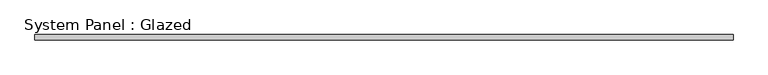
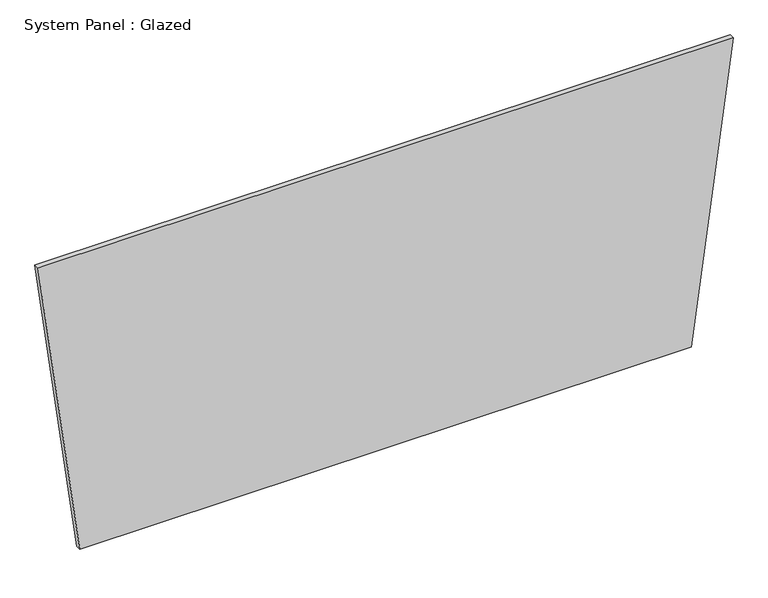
"""IFC4 building model written with IfcOpenShell, lengths in millimetres: plate geometry, System Panel : Glazed."""

from ifc_helpers import new_model, si_unit, frame, origin, place, context, project, spatial, polyline, outline, extrude, source, transform, mapped, element, save


def system_panel_glazed_fe6de704(model_context):
    return source(origin(), model_context, "Body", "SweptSolid", [
        extrude(outline(polyline([(0.0, -1479.0225147), (0.0, 1479.0225147), (1510.5644321, 1680.9410542), (1510.5644321, -1680.9410542), (0.0, -1479.0225147)])), frame((0.0, -44.45, 0.0), z_axis=(0.0, 1.0, 0.0), x_axis=(0.0, 0.0, 1.0)), (0.0, 0.0, 1.0), 25.4),
    ])


if __name__ == "__main__":
    model = new_model("IFC4")
    model_context = context("Model", 3, world=origin())
    ifc_project = project(units=[si_unit("LENGTHUNIT", "METRE", prefix="MILLI")], contexts=[model_context])
    site = spatial("IfcSite", under=ifc_project)
    building = spatial("IfcBuilding", under=site)
    placement = place(None, origin())
    system_panel_glazed_shape = system_panel_glazed_fe6de704(model_context)
    element("IfcPlate", 1, ObjectType="System Panel : Glazed", at=placement, inside=building, context=model_context, shape_type="MappedRepresentation", body=[
        mapped(system_panel_glazed_shape, transform((0.0, 0.0, 0.0), x_axis=(1.0, 0.0, 0.0), y_axis=(0.0, 1.0, 0.0), z_axis=(0.0, 0.0, 1.0))),
    ])
    save(model, "model.ifc")
